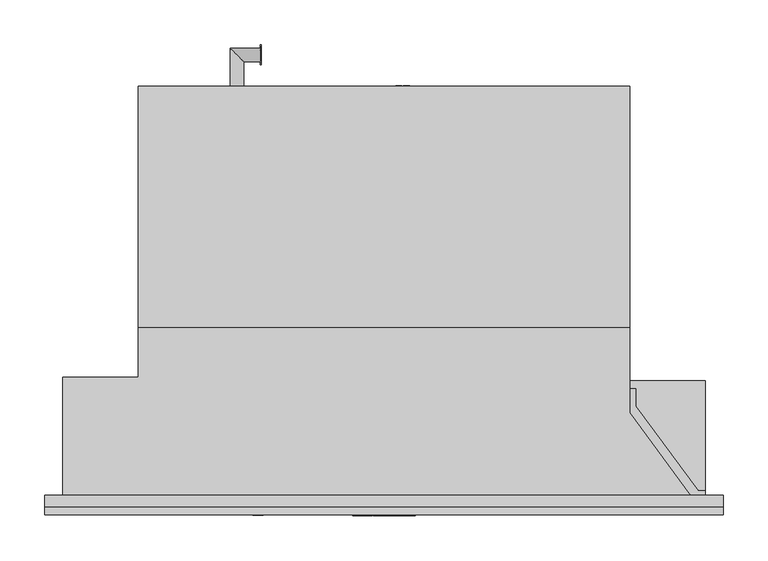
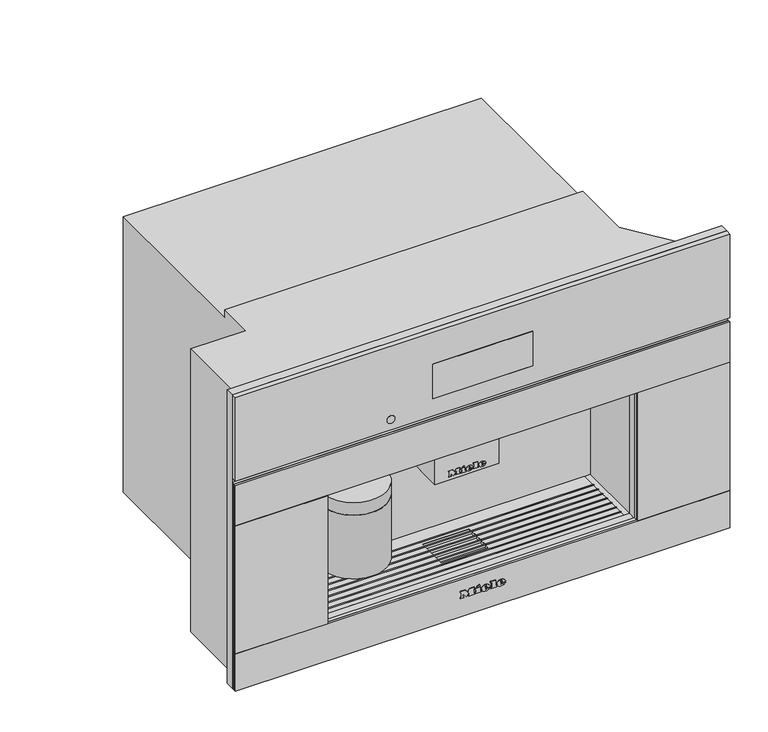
"""IFC4 building model written with IfcOpenShell, lengths in millimetres: proxy geometry, 12635820_USA_CVA7875_GRGR : 29787530_USA_12635820_CVA7875_GRGR."""

from ifc_helpers import new_model, si_unit, point, frame, frame_2d, origin, place, context, project, spatial, polyline, circle_curve, ellipse_curve, trimmed, segment, composite_curve, outline, extrude, faceted_brep, source, transform, mapped, element, save
from ifc_brep_helpers import plane_surface, cylinder_surface, revolved_surface, extruded_surface, advanced_brep


def specialty_equipment_ae1940a0(model_context):
    return source(origin(), model_context, "Body", "SolidModel", [
        extrude(outline(composite_curve([segment(trimmed(circle_curve(frame_2d((-14.0, 36.5)), 5.0), [point((-9.0, 36.5))], [point((-19.0, 36.5))], False, "CARTESIAN"), True, "CONTINUOUS"), segment(trimmed(circle_curve(frame_2d((-14.0, 36.5)), 5.0), [point((-19.0, 36.5))], [point((-9.0, 36.5))], False, "CARTESIAN"), True, "CONTINUOUS")], self_intersect=False)), frame((0.0, 0.0, 193.0), z_axis=(0.0, 0.0, 1.0), x_axis=(1.0, 0.0, 0.0)), (0.0, 0.0, 1.0), 5.0),
        extrude(outline(composite_curve([segment(trimmed(circle_curve(frame_2d((14.0, 36.5)), 5.0), [point((19.0, 36.5))], [point((9.0, 36.5))], False, "CARTESIAN"), True, "CONTINUOUS"), segment(trimmed(circle_curve(frame_2d((14.0, 36.5)), 5.0), [point((9.0, 36.5))], [point((19.0, 36.5))], False, "CARTESIAN"), True, "CONTINUOUS")], self_intersect=False)), frame((0.0, 0.0, 193.0), z_axis=(0.0, 0.0, 1.0), x_axis=(1.0, 0.0, 0.0)), (0.0, 0.0, 1.0), 5.0),
        extrude(outline(composite_curve([segment(trimmed(circle_curve(frame_2d((-156.5, 49.5)), 50.0), [point((-106.5, 49.5))], [point((-206.5, 49.5))], False, "CARTESIAN"), True, "CONTINUOUS"), segment(trimmed(circle_curve(frame_2d((-156.5, 49.5)), 50.0), [point((-206.5, 49.5))], [point((-106.5, 49.5))], False, "CARTESIAN"), True, "CONTINUOUS")], self_intersect=False)), frame((0.0, 0.0, 100.0), z_axis=(0.0, 0.0, 1.0), x_axis=(1.0, 0.0, 0.0)), (0.0, 0.0, 1.0), 103.0),
        extrude(outline(polyline([(-49.0, 95.0), (49.0, 95.0), (49.0, 20.0), (-49.0, 20.0), (-49.0, 95.0)])), frame((0.0, 0.0, 198.0), z_axis=(0.0, 0.0, 1.0), x_axis=(1.0, 0.0, 0.0)), (0.0, 0.0, 1.0), 75.0),
        extrude(outline(polyline([(479.0, 378.5), (479.0, -378.5), (4.0, -378.5), (4.0, 378.5), (479.0, 378.5)]), holes=[polyline([(273.0, 237.5), (63.0, 237.5), (63.0, -237.5), (273.0, -237.5), (273.0, 237.5)])]), frame((0.0, -13.0, 0.0), z_axis=(0.0, 1.0, 0.0), x_axis=(0.0, 0.0, 1.0)), (0.0, 0.0, 1.0), 13.0),
        extrude(outline(polyline([(281.0, 118.7), (281.0, 99.0591954), (350.457423, 4.7), (358.5, 4.7), (358.5, 0.0), (341.5, 0.0), (274.0, 91.7), (274.0, 118.7), (281.0, 118.7)])), frame((0.0, 0.0, 45.0), z_axis=(0.0, 0.0, 1.0), x_axis=(1.0, 0.0, 0.0)), (0.0, 0.0, 1.0), 34.0),
        faceted_brep([(-22.0, 400.0, 133.0), (55.0, 400.0, 133.0), (55.0, 400.0, 66.0), (35.0, 400.0, 66.0), (-22.0, 400.0, 89.0), (-22.0, 456.0, 133.0), (55.0, 456.0, 133.0), (55.0, 456.0, 66.0), (35.0, 456.0, 66.0), (-22.0, 456.0, 89.0), (358.5, 0.0, 0.0), (358.5, 127.7, 0.0), (358.5, 127.7, 45.0), (358.5, 0.0, 45.0), (-358.5, 0.0, 0.0), (-358.5, 0.0, 458.0), (-358.5, 131.7, 458.0), (-358.5, 131.7, 0.0), (-274.0, 131.7, 0.0), (-274.0, 456.0, 0.0), (274.0, 456.0, 0.0), (274.0, 127.7, 0.0), (274.0, 456.0, 446.0), (-274.0, 456.0, 446.0), (274.0, 187.0, 446.0), (-274.0, 187.0, 446.0), (274.0, 187.0, 458.0), (-274.0, 187.0, 458.0), (341.5, 0.0, 458.0), (274.0, 91.7, 458.0), (-274.0, 131.7, 458.0), (341.5, 0.0, 45.0), (237.5, 0.0, 273.0), (237.5, 0.0, 63.0), (229.5, 0.0, 63.0), (229.5, 0.0, 62.0), (-229.5, 0.0, 62.0), (-229.5, 0.0, 63.0), (-237.5, 0.0, 63.0), (-237.5, 0.0, 273.0), (237.5, 104.5, 273.0), (-237.5, 104.5, 273.0), (-237.5, 104.5, 63.0), (-229.5, 104.5, 63.0), (-229.5, 104.5, 62.0), (229.5, 104.5, 62.0), (229.5, 104.5, 63.0), (237.5, 104.5, 63.0), (-36.0, 76.0, 62.0), (36.0, 76.0, 62.0), (36.0, 25.0, 62.0), (-36.0, 25.0, 62.0), (36.0, 76.0, 58.0), (-36.0, 76.0, 58.0), (-36.0, 25.0, 58.0), (36.0, 25.0, 58.0), (274.0, 91.7, 45.0), (274.0, 127.7, 45.0)], [[[0, 1, 2, 3, 4]], [[1, 0, 5, 6]], [[2, 1, 6, 7]], [[3, 2, 7, 8]], [[4, 3, 8, 9]], [[0, 4, 9, 5]], [[10, 11, 12, 13]], [[14, 15, 16, 17]], [[10, 14, 17, 18, 19, 20, 21, 11]], [[22, 20, 19, 23], [6, 5, 9, 8, 7]], [[24, 22, 23, 25]], [[26, 24, 25, 27]], [[15, 28, 29, 26, 27, 30, 16]], [[15, 14, 10, 13, 31, 28], [32, 33, 34, 35, 36, 37, 38, 39]], [[40, 41, 42, 43, 44, 45, 46, 47]], [[40, 47, 33, 32]], [[33, 47, 46, 34]], [[42, 38, 37, 43]], [[42, 41, 39, 38]], [[41, 40, 32, 39]], [[45, 44, 36, 35], [48, 49, 50, 51]], [[36, 44, 43, 37]], [[45, 35, 34, 46]], [[52, 53, 54, 55]], [[53, 52, 49, 48]], [[54, 53, 48, 51]], [[55, 54, 51, 50]], [[52, 55, 50, 49]], [[21, 20, 22, 24, 26, 29, 56, 57]], [[11, 21, 57, 12]], [[57, 56, 31, 13, 12]], [[30, 18, 17, 16]], [[18, 30, 27, 25, 23, 19]], [[31, 56, 29, 28]]]),
        extrude(outline(polyline([(480.48348, 22.0), (480.48348, 32.045631), (481.7391839, 32.045631), (481.7391839, 27.128275), (486.8895318, 32.045631), (488.6455552, 32.045631), (484.3217155, 27.9155425), (488.8025182, 22.0), (487.267224, 22.0), (483.4314411, 27.0669613), (481.7391839, 25.4531857), (481.7391839, 22.0), (480.48348, 22.0)])), frame((-138.0, 0.0, 0.0), z_axis=(1.0, 0.0, 0.0), x_axis=(0.0, 1.0, 0.0)), (0.0, 0.0, 1.0), 1.0),
        extrude(outline(polyline([(491.5420128, 22.0), (488.8025182, 32.045631), (490.0974628, 32.045631), (491.6867131, 25.4433755), (492.1772224, 23.4053092), (492.7020674, 25.207931), (494.6935352, 32.045631), (496.5599232, 32.045631), (498.0069257, 27.0890343), (499.0835937, 23.4053092), (499.5593878, 25.3845144), (501.1633533, 32.045631), (502.4582979, 32.045631), (499.7163507, 22.0), (498.3748077, 22.0), (495.9664069, 29.7500474), (495.630408, 30.8316204), (495.2527159, 29.5293182), (493.0576866, 22.0), (491.5420128, 22.0)])), frame((-138.0, 0.0, 0.0), z_axis=(1.0, 0.0, 0.0), x_axis=(0.0, 1.0, 0.0)), (0.0, 0.0, 1.0), 1.0),
        advanced_brep(
        [(-156.5, 456.0, 27.0), (-171.5, 456.0, 27.0), (-156.5, 483.5, 27.0), (-171.5, 498.5, 27.0), (-138.0, 483.5, 27.0), (-138.0, 498.5, 27.0)],
        [
            (0, 1, circle_curve(frame((-164.0, 456.0, 27.0), z_axis=(0.0, -1.0, 0.0), x_axis=(-1.0, 0.0, 0.0)), 7.5)),
            (1, 0, circle_curve(frame((-164.0, 456.0, 27.0), z_axis=(0.0, -1.0, 0.0), x_axis=(-1.0, 0.0, 0.0)), 7.5)),
            (0, 2),
            (2, 3, ellipse_curve(frame((-164.0, 491.0, 27.0), z_axis=(-0.707106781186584, -0.7071067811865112, 0.0), x_axis=(0.7071067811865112, -0.7071067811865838, 0.0)), 10.6066017, 7.5)),
            (3, 1),
            (3, 2, ellipse_curve(frame((-164.0, 491.0, 27.0), z_axis=(-0.707106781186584, -0.7071067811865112, 0.0), x_axis=(0.7071067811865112, -0.7071067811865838, 0.0)), 10.6066017, 7.5)),
            (4, 5, circle_curve(frame((-138.0, 491.0, 27.0), z_axis=(1.0, 0.0, 0.0), x_axis=(0.0, 1.0, 0.0)), 7.5)),
            (5, 4, circle_curve(frame((-138.0, 491.0, 27.0), z_axis=(1.0, 0.0, 0.0), x_axis=(0.0, 1.0, 0.0)), 7.5)),
            (2, 4),
            (5, 3),
        ],
        [
            plane_surface(frame((-164.0, 456.0, 27.0), z_axis=(0.0, -1.0, 0.0), x_axis=(0.0, 0.0, 1.0))),
            cylinder_surface(frame((-164.0, 456.0, 27.0), z_axis=(0.0, -1.0, 0.0), x_axis=(-1.0, 0.0, 0.0)), 7.5),
            plane_surface(frame((-138.0, 491.0, 27.0), z_axis=(1.0, 0.0, 0.0), x_axis=(0.0, 0.0, 1.0))),
            cylinder_surface(frame((-164.0, 491.0, 27.0), z_axis=(-1.0, 0.0, 0.0), x_axis=(0.0, 1.0, 0.0)), 7.5),
        ],
        [
            (0, [[1, 2]]),
            (1, [[-1, 3, 4, 5]]),
            (1, [[-2, -5, 6, -3]]),
            (2, [[7, 8]]),
            (3, [[-4, 9, -8, 10]]),
            (3, [[-6, -10, -7, -9]]),
        ],
    ),
        extrude(outline(polyline([(99.0, 28.8772152), (109.045631, 28.8772152), (109.045631, 21.6569179), (107.7899271, 21.6569179), (107.7899271, 27.6215114), (104.8076304, 27.6215114), (104.8076304, 21.9708439), (103.5519266, 21.9708439), (103.5519266, 27.6215114), (100.2557039, 27.6215114), (100.2557039, 21.499955), (99.0, 21.499955), (99.0, 28.8772152)])), frame((0.0, 456.0, 0.0), z_axis=(0.0, 1.0, 0.0), x_axis=(0.0, 0.0, 1.0)), (0.0, 0.0, 1.0), 1.0),
        extrude(outline(polyline([(99.0, 19.6163991), (109.045631, 19.6163991), (109.045631, 18.3606953), (100.2557039, 18.3606953), (100.2557039, 13.3378798), (99.0, 13.3378798), (99.0, 19.6163991)])), frame((0.0, 456.0, 0.0), z_axis=(0.0, 1.0, 0.0), x_axis=(0.0, 0.0, 1.0)), (0.0, 0.0, 1.0), 1.0),
        advanced_brep(
        [(55.0, 425.5, 104.0), (55.0, 410.5, 104.0), (28.5, 425.5, 104.0), (13.5, 410.5, 104.0), (28.5, 456.0, 104.0), (13.5, 456.0, 104.0)],
        [
            (0, 1, circle_curve(frame((55.0, 418.0, 104.0), z_axis=(1.0, 0.0, 0.0), x_axis=(0.0, -1.0, 0.0)), 7.5)),
            (1, 0, circle_curve(frame((55.0, 418.0, 104.0), z_axis=(1.0, 0.0, 0.0), x_axis=(0.0, -1.0, 0.0)), 7.5)),
            (0, 2),
            (2, 3, ellipse_curve(frame((21.0, 418.0, 104.0), z_axis=(0.7071067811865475, -0.7071067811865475, 0.0), x_axis=(0.7071067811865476, 0.7071067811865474, 0.0)), 10.6066017, 7.5)),
            (3, 1),
            (3, 2, ellipse_curve(frame((21.0, 418.0, 104.0), z_axis=(0.7071067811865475, -0.7071067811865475, 0.0), x_axis=(0.7071067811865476, 0.7071067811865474, 0.0)), 10.6066017, 7.5)),
            (4, 5, circle_curve(frame((21.0, 456.0, 104.0), z_axis=(0.0, 1.0, 0.0), x_axis=(-1.0, 0.0, 0.0)), 7.5)),
            (5, 4, circle_curve(frame((21.0, 456.0, 104.0), z_axis=(0.0, 1.0, 0.0), x_axis=(-1.0, 0.0, 0.0)), 7.5)),
            (2, 4),
            (5, 3),
        ],
        [
            plane_surface(frame((55.0, 418.0, 104.0), z_axis=(1.0, 0.0, 0.0), x_axis=(0.0, 0.0, 1.0))),
            cylinder_surface(frame((55.0, 418.0, 104.0), z_axis=(1.0, 0.0, 0.0), x_axis=(0.0, -1.0, 0.0)), 7.5),
            plane_surface(frame((21.0, 456.0, 104.0), z_axis=(0.0, 1.0, 0.0), x_axis=(0.0, 0.0, 1.0))),
            cylinder_surface(frame((21.0, 418.0, 104.0), z_axis=(0.0, -1.0, 0.0), x_axis=(-1.0, 0.0, 0.0)), 7.5),
        ],
        [
            (0, [[1, 2]]),
            (1, [[-1, 3, 4, 5]]),
            (1, [[-2, -5, 6, -3]]),
            (2, [[7, 8]]),
            (3, [[-4, 9, -8, 10]]),
            (3, [[-6, -10, -7, -9]]),
        ],
    ),
        advanced_brep(
        [(-110.0, 49.5, 252.0), (-203.0, 49.5, 252.0), (-206.5, 49.5, 223.5), (-106.5, 49.5, 223.5), (-110.0, 49.5, 273.0), (-203.0, 49.5, 273.0), (-156.5, 49.5, 273.0), (-106.5, 49.5, 203.0), (-206.5, 49.5, 203.0), (-156.5, 49.5, 203.0)],
        [
            (0, 1, circle_curve(frame((-156.5, 49.5, 252.0), z_axis=(0.0, 0.0, -1.0), x_axis=(-1.0, 0.0, 0.0)), 46.5)),
            (1, 2, circle_curve(frame((-206.7961166, 49.5, 238.0012775), z_axis=(0.0, 1.0, 0.0), x_axis=(-1.0, 0.0, 0.0)), 14.5043005)),
            (2, 3, circle_curve(frame((-156.5, 49.5, 223.5), z_axis=(0.0, 0.0, 1.0), x_axis=(-1.0, 0.0, 0.0)), 50.0)),
            (3, 0, circle_curve(frame((-106.2038834, 49.5, 238.0012775), z_axis=(0.0, 1.0, 0.0), x_axis=(1.0, 0.0, 0.0)), 14.5043005)),
            (4, 5, circle_curve(frame((-156.5, 49.5, 273.0), z_axis=(0.0, 0.0, -1.0), x_axis=(-1.0, 0.0, 0.0)), 46.5)),
            (5, 1),
            (0, 4),
            (6, 4),
            (4, 5, circle_curve(frame((-156.5, 49.5, 273.0), z_axis=(0.0, 0.0, 1.0), x_axis=(-1.0, 0.0, 0.0)), 46.5)),
            (5, 6),
            (7, 8, circle_curve(frame((-156.5, 49.5, 203.0), z_axis=(0.0, 0.0, -1.0), x_axis=(-1.0, 0.0, 0.0)), 50.0)),
            (8, 9),
            (9, 7),
            (8, 7, circle_curve(frame((-156.5, 49.5, 203.0), z_axis=(0.0, 0.0, -1.0), x_axis=(-1.0, 0.0, 0.0)), 50.0)),
            (2, 8),
            (7, 3),
            (2, 3, circle_curve(frame((-156.5, 49.5, 223.5), z_axis=(0.0, 0.0, -1.0), x_axis=(-1.0, 0.0, 0.0)), 50.0)),
            (1, 0, circle_curve(frame((-156.5, 49.5, 252.0), z_axis=(0.0, 0.0, -1.0), x_axis=(-1.0, 0.0, 0.0)), 46.5)),
        ],
        [
            revolved_surface(trimmed(ellipse_curve(frame((-206.7961166, 49.5, 238.0012775), z_axis=(0.0, -1.0, 0.0), x_axis=(-1.0, 0.0, 0.0)), 14.5043005, 14.5043005), [point((-206.5, 49.5, 223.5))], [point((-203.0, 49.5, 252.0))], True, "CARTESIAN"), (-156.5, 49.5, 388.7361736), (0.0, 0.0, 1.0)),
            cylinder_surface(frame((-156.5, 49.5, 388.7361736), z_axis=(0.0, 0.0, 1.0), x_axis=(-1.0, 0.0, 0.0)), 46.5),
            plane_surface(frame((-156.5, 49.5, 273.0), z_axis=(0.0, 0.0, 1.0), x_axis=(-1.0, 0.0, 0.0))),
            plane_surface(frame((-156.5, 49.5, 203.0), z_axis=(0.0, 0.0, -1.0), x_axis=(-1.0, 0.0, 0.0))),
            cylinder_surface(frame((-156.5, 49.5, 388.7361736), z_axis=(0.0, 0.0, 1.0), x_axis=(-1.0, 0.0, 0.0)), 50.0),
        ],
        [
            (0, [[1, 2, 3, 4]]),
            (1, [[5, 6, -1, 7]]),
            (2, [[8, 9, 10]]),
            (3, [[11, 12, 13]]),
            (3, [[14, -13, -12]]),
            (4, [[-3, 15, -11, 16]]),
            (4, [[17, -16, -14, -15]]),
            (0, [[18, -4, -17, -2]]),
            (1, [[-9, -7, -18, -6]]),
            (2, [[-10, -5, -8]]),
        ],
    ),
        faceted_brep([(229.5, 82.0925571, 60.0), (229.5, 80.0925571, 60.0), (-229.5, 80.0925571, 60.0), (-229.5, 82.0925571, 60.0), (229.5, 70.0550731, 60.0), (229.5, 68.0550731, 60.0), (-229.5, 68.0550731, 60.0), (-229.5, 70.0550731, 60.0), (229.5, 58.0175891, 60.0), (229.5, 56.0175891, 60.0), (-229.5, 56.0175891, 60.0), (-229.5, 58.0175891, 60.0), (229.5, 45.9801052, 60.0), (229.5, 43.9801052, 60.0), (-229.5, 43.9801052, 60.0), (-229.5, 45.9801052, 60.0), (229.5, 33.9426212, 60.0), (229.5, 31.9426212, 60.0), (-229.5, 31.9426212, 60.0), (-229.5, 33.9426212, 60.0), (229.5, 21.9776522, 60.0), (229.5, 19.9776522, 60.0), (-229.5, 19.9776522, 60.0), (-229.5, 21.9776522, 60.0), (229.5, 10.0, 60.0), (229.5, 8.0, 60.0), (-229.5, 8.0, 60.0), (-229.5, 10.0, 60.0), (-229.5, 45.9801052, 62.0), (-36.0, 45.9801052, 62.0), (-36.0, 45.9801052, 63.0), (-229.5, 45.9801052, 63.0), (-229.5, 45.9801052, 63.5), (229.5, 45.9801052, 63.5), (229.5, 45.9801052, 63.0), (36.0, 45.9801052, 63.0), (36.0, 45.9801052, 62.0), (229.5, 45.9801052, 62.0), (229.5, 19.9776522, 62.0), (229.5, 10.0, 62.0), (-229.5, 10.0, 62.0), (-229.5, 19.9776522, 62.0), (229.5, 43.9801052, 62.0), (229.5, 33.9426212, 62.0), (36.0, 33.9426212, 62.0), (36.0, 43.9801052, 62.0), (229.5, 56.0175891, 62.0), (36.0, 56.0175891, 62.0), (229.5, 68.0550731, 62.0), (229.5, 58.0175891, 62.0), (36.0, 58.0175891, 62.0), (36.0, 68.0550731, 62.0), (-229.5, 33.9426212, 62.0), (-229.5, 43.9801052, 62.0), (-36.0, 43.9801052, 62.0), (-36.0, 33.9426212, 62.0), (-229.5, 56.0175891, 62.0), (-36.0, 56.0175891, 62.0), (-229.5, 58.0175891, 62.0), (-229.5, 68.0550731, 62.0), (-36.0, 68.0550731, 62.0), (-36.0, 58.0175891, 62.0), (-229.5, 104.5, 62.0), (229.5, 104.5, 62.0), (229.5, 82.0925571, 62.0), (-229.5, 82.0925571, 62.0), (36.0, 76.0, 62.0), (-36.0, 76.0, 62.0), (-36.0, 70.0550731, 62.0), (-229.5, 70.0550731, 62.0), (-229.5, 80.0925571, 62.0), (229.5, 80.0925571, 62.0), (229.5, 70.0550731, 62.0), (36.0, 70.0550731, 62.0), (229.5, 0.0, 62.0), (-229.5, 0.0, 62.0), (-229.5, 8.0, 62.0), (229.5, 8.0, 62.0), (-36.0, 25.0, 62.0), (36.0, 25.0, 62.0), (36.0, 31.9426212, 62.0), (229.5, 31.9426212, 62.0), (229.5, 21.9776522, 62.0), (-229.5, 21.9776522, 62.0), (-229.5, 31.9426212, 62.0), (-36.0, 31.9426212, 62.0), (229.5, 104.5, 63.0), (-229.5, 104.5, 63.0), (-229.5, 82.0925571, 63.0), (229.5, 82.0925571, 63.0), (-229.5, 0.0, 63.0), (229.5, 0.0, 63.0), (229.5, 8.0, 63.0), (-229.5, 8.0, 63.0), (-36.0, 76.0, 63.0), (36.0, 76.0, 63.0), (36.0, 70.0550731, 63.0), (229.5, 70.0550731, 63.0), (229.5, 80.0925571, 63.0), (-229.5, 80.0925571, 63.0), (-229.5, 70.0550731, 63.0), (-36.0, 70.0550731, 63.0), (36.0, 25.0, 63.0), (-36.0, 25.0, 63.0), (-36.0, 31.9426212, 63.0), (-229.5, 31.9426212, 63.0), (-229.5, 21.9776522, 63.0), (229.5, 21.9776522, 63.0), (229.5, 31.9426212, 63.0), (36.0, 31.9426212, 63.0), (-229.5, 19.9776522, 63.0), (-229.5, 10.0, 63.0), (229.5, 10.0, 63.0), (229.5, 19.9776522, 63.0), (-229.5, 43.9801052, 63.0), (-229.5, 33.9426212, 63.0), (-36.0, 33.9426212, 63.0), (-36.0, 43.9801052, 63.0), (-229.5, 56.0175891, 63.0), (-36.0, 56.0175891, 63.0), (-229.5, 68.0550731, 63.0), (-229.5, 58.0175891, 63.0), (-36.0, 58.0175891, 63.0), (-36.0, 68.0550731, 63.0), (229.5, 33.9426212, 63.0), (229.5, 43.9801052, 63.0), (36.0, 43.9801052, 63.0), (36.0, 33.9426212, 63.0), (229.5, 56.0175891, 63.0), (36.0, 56.0175891, 63.0), (229.5, 58.0175891, 63.0), (229.5, 68.0550731, 63.0), (36.0, 68.0550731, 63.0), (36.0, 58.0175891, 63.0), (-229.5, 8.0, 63.5), (-229.5, 10.0, 63.5), (-229.5, 19.9776522, 63.5), (-229.5, 21.9776522, 63.5), (-229.5, 31.9426212, 63.5), (-229.5, 33.9426212, 63.5), (-229.5, 43.9801052, 63.5), (-229.5, 56.0175891, 63.5), (-229.5, 58.0175891, 63.5), (-229.5, 68.0550731, 63.5), (-229.5, 70.0550731, 63.5), (-229.5, 80.0925571, 63.5), (-229.5, 82.0925571, 63.5), (229.5, 82.0925571, 63.5), (229.5, 80.0925571, 63.5), (229.5, 70.0550731, 63.5), (229.5, 68.0550731, 63.5), (229.5, 58.0175891, 63.5), (229.5, 56.0175891, 63.5), (229.5, 43.9801052, 63.5), (229.5, 33.9426212, 63.5), (229.5, 31.9426212, 63.5), (229.5, 21.9776522, 63.5), (229.5, 19.9776522, 63.5), (229.5, 10.0, 63.5), (229.5, 8.0, 63.5)], [[[0, 1, 2, 3]], [[4, 5, 6, 7]], [[8, 9, 10, 11]], [[12, 13, 14, 15]], [[16, 17, 18, 19]], [[20, 21, 22, 23]], [[24, 25, 26, 27]], [[12, 15, 28, 29, 30, 31, 32, 33, 34, 35, 36, 37]], [[38, 39, 40, 41]], [[42, 43, 44, 45]], [[46, 37, 36, 47]], [[48, 49, 50, 51]], [[52, 53, 54, 55]], [[28, 56, 57, 29]], [[58, 59, 60, 61]], [[62, 63, 64, 65]], [[66, 67, 68, 69, 70, 71, 72, 73]], [[74, 75, 76, 77]], [[78, 79, 80, 81, 82, 83, 84, 85]], [[86, 87, 88, 89]], [[90, 91, 92, 93]], [[94, 95, 96, 97, 98, 99, 100, 101]], [[102, 103, 104, 105, 106, 107, 108, 109]], [[110, 111, 112, 113]], [[114, 115, 116, 117]], [[118, 31, 30, 119]], [[120, 121, 122, 123]], [[124, 125, 126, 127]], [[34, 128, 129, 35]], [[130, 131, 132, 133]], [[63, 62, 87, 86]], [[87, 62, 65, 3, 2, 70, 69, 7, 6, 59, 58, 11, 10, 56, 28, 15, 14, 53, 52, 19, 18, 84, 83, 23, 22, 41, 40, 27, 26, 76, 75, 90, 93, 134, 135, 111, 110, 136, 137, 106, 105, 138, 139, 115, 114, 140, 32, 31, 118, 141, 142, 121, 120, 143, 144, 100, 99, 145, 146, 88]], [[75, 74, 91, 90]], [[63, 86, 89, 147, 148, 98, 97, 149, 150, 131, 130, 151, 152, 128, 34, 33, 153, 125, 124, 154, 155, 108, 107, 156, 157, 113, 112, 158, 159, 92, 91, 74, 77, 25, 24, 39, 38, 21, 20, 82, 81, 17, 16, 43, 42, 13, 12, 37, 46, 9, 8, 49, 48, 5, 4, 72, 71, 1, 0, 64]], [[66, 95, 94, 67]], [[55, 54, 117, 116]], [[29, 57, 119, 30]], [[61, 60, 123, 122]], [[67, 94, 101, 68]], [[103, 78, 85, 104]], [[78, 103, 102, 79]], [[45, 44, 127, 126]], [[47, 36, 35, 129]], [[51, 50, 133, 132]], [[95, 66, 73, 96]], [[79, 102, 109, 80]], [[158, 135, 134, 159]], [[156, 137, 136, 157]], [[154, 139, 138, 155]], [[33, 32, 140, 153]], [[151, 142, 141, 152]], [[149, 144, 143, 150]], [[147, 146, 145, 148]], [[24, 27, 40, 39]], [[135, 158, 112, 111]], [[26, 25, 77, 76]], [[159, 134, 93, 92]], [[20, 23, 83, 82]], [[137, 156, 107, 106]], [[22, 21, 38, 41]], [[157, 136, 110, 113]], [[16, 19, 52, 55, 116, 115, 139, 154, 124, 127, 44, 43]], [[18, 17, 81, 80, 109, 108, 155, 138, 105, 104, 85, 84]], [[14, 13, 42, 45, 126, 125, 153, 140, 114, 117, 54, 53]], [[8, 11, 58, 61, 122, 121, 142, 151, 130, 133, 50, 49]], [[10, 9, 46, 47, 129, 128, 152, 141, 118, 119, 57, 56]], [[4, 7, 69, 68, 101, 100, 144, 149, 97, 96, 73, 72]], [[6, 5, 48, 51, 132, 131, 150, 143, 120, 123, 60, 59]], [[0, 3, 65, 64]], [[146, 147, 89, 88]], [[2, 1, 71, 70]], [[148, 145, 99, 98]]]),
        advanced_brep(
        [(27.088, -23.0, 36.7018), (27.088, -23.0, 37.8532), (34.7146, -23.0, 37.8532), (21.445, -23.0, 37.8532), (24.58, -23.0, 34.0), (34.5208, -23.0, 36.7018), (31.078, -23.0, 36.7018), (28.3648, -23.0, 35.425), (27.088, -23.0, 39.3124), (27.088, -23.0, 40.555), (29.0374, -23.0, 40.555), (29.0374, -23.0, 39.3124), (27.088, -22.0, 36.7018), (28.3648, -22.0, 35.425), (31.078, -22.0, 36.7018), (34.5208, -22.0, 36.7018), (24.58, -22.0, 34.0), (21.445, -22.0, 37.8532), (34.7146, -22.0, 37.8532), (27.088, -22.0, 37.8532), (27.088, -22.0, 39.3124), (29.0374, -22.0, 39.3124), (29.0374, -22.0, 40.555), (27.088, -22.0, 40.555)],
        [
            (0, 1),
            (1, 2),
            (2, 3, ellipse_curve(frame((28.0798, -23.0, 37.8532), z_axis=(0.0, -1.0, 0.0), x_axis=(-1.0, 0.0, 0.0)), 6.6348, 5.4834)),
            (3, 4, circle_curve(frame((25.8568622, -23.0, 38.2408), z_axis=(0.0, -1.0, 0.0), x_axis=(0.0, 0.0, -1.0)), 4.4288556)),
            (4, 5, circle_curve(frame((27.9469808, -23.0, 41.2504), z_axis=(0.0, -1.0, 0.0), x_axis=(0.0, 0.0, -1.0)), 7.9940516)),
            (5, 6),
            (6, 7, circle_curve(frame((28.9220588, -23.0, 37.762), z_axis=(0.0, 1.0, 0.0), x_axis=(0.0, 0.0, -1.0)), 2.4025208)),
            (7, 0, circle_curve(frame((28.3648, -23.0, 36.7018), z_axis=(0.0, 1.0, 0.0), x_axis=(0.0, 0.0, -1.0)), 1.2768)),
            (8, 9),
            (9, 10, circle_curve(frame((28.0627, -23.0, 40.555), z_axis=(0.0, 1.0, 0.0), x_axis=(0.0, 0.0, -1.0)), 0.9747)),
            (10, 11),
            (11, 8),
            (12, 13, circle_curve(frame((28.3648, -22.0, 36.7018), z_axis=(0.0, -1.0, 0.0), x_axis=(0.0, 0.0, -1.0)), 1.2768)),
            (13, 14, circle_curve(frame((28.9220588, -22.0, 37.762), z_axis=(0.0, -1.0, 0.0), x_axis=(0.0, 0.0, -1.0)), 2.4025208)),
            (14, 15),
            (15, 16, circle_curve(frame((27.9469808, -22.0, 41.2504), z_axis=(0.0, 1.0, 0.0), x_axis=(0.0, 0.0, -1.0)), 7.9940516)),
            (16, 17, circle_curve(frame((25.8568622, -22.0, 38.2408), z_axis=(0.0, 1.0, 0.0), x_axis=(0.0, 0.0, -1.0)), 4.4288556)),
            (17, 18, ellipse_curve(frame((28.0798, -22.0, 37.8532), z_axis=(0.0, 1.0, 0.0), x_axis=(-1.0, 0.0, 0.0)), 6.6348, 5.4834)),
            (18, 19),
            (19, 12),
            (20, 21),
            (21, 22),
            (22, 23, circle_curve(frame((28.0627, -22.0, 40.555), z_axis=(0.0, -1.0, 0.0), x_axis=(0.0, 0.0, -1.0)), 0.9747)),
            (23, 20),
            (0, 12),
            (19, 1),
            (18, 2),
            (5, 15),
            (14, 6),
            (17, 3),
            (13, 7),
            (16, 4),
            (8, 20),
            (23, 9),
            (22, 10),
            (21, 11),
        ],
        [
            plane_surface(frame((27.088, -23.0, 37.8532), z_axis=(0.0, -1.0, 0.0), x_axis=(0.0, 0.0, 1.0))),
            plane_surface(frame((27.088, -22.0, 37.8532), z_axis=(0.0, 1.0, 0.0), x_axis=(0.0, 0.0, -1.0))),
            plane_surface(frame((27.088, -23.0, 36.7018), z_axis=(1.0, 0.0, 0.0), x_axis=(0.0, 1.0, 0.0))),
            plane_surface(frame((27.088, -23.0, 37.8532), z_axis=(0.0, 0.0, -1.0), x_axis=(0.0, 1.0, 0.0))),
            plane_surface(frame((34.5208, -23.0, 36.7018), z_axis=(0.0, 0.0, 1.0), x_axis=(0.0, 1.0, 0.0))),
            extruded_surface(trimmed(ellipse_curve(frame((28.0798, -21.0, 37.8532), z_axis=(0.0, -1.0, 0.0), x_axis=(-1.0, 0.0, 0.0)), 6.6348, 5.4834), [point((34.7146, -21.0, 37.8532))], [point((21.445, -21.0, 37.8532))], True, "CARTESIAN"), (0.0, -1.0, 0.0), 1.0),
            revolved_surface(polyline([(28.9220588, -22.0, 35.3594792), (28.9220588, -23.0, 35.3594792)]), (28.9220588, -22.0, 37.762), (0.0, 1.0, 0.0)),
            revolved_surface(polyline([(28.3648, -22.0, 35.425), (28.3648, -23.0, 35.425)]), (28.3648, -22.0, 36.7018), (0.0, 1.0, 0.0)),
            cylinder_surface(frame((25.8568622, -22.0, 38.2408), z_axis=(0.0, -1.0, 0.0), x_axis=(0.0, 0.0, -1.0)), 4.4288556),
            cylinder_surface(frame((27.9469808, -22.0, 41.2504), z_axis=(0.0, -1.0, 0.0), x_axis=(0.0, 0.0, -1.0)), 7.9940516),
            plane_surface(frame((27.088, -23.0, 39.3124), z_axis=(1.0, 0.0, 0.0), x_axis=(0.0, 1.0, 0.0))),
            revolved_surface(polyline([(28.0627, -22.0, 39.5803), (28.0627, -23.0, 39.5803)]), (28.0627, -22.0, 40.555), (0.0, 1.0, 0.0)),
            plane_surface(frame((29.0374, -23.0, 40.555), z_axis=(-1.0, 0.0, 0.0), x_axis=(0.0, 1.0, 0.0))),
            plane_surface(frame((29.0374, -23.0, 39.3124), z_axis=(0.0, 0.0, 1.0), x_axis=(0.0, 1.0, 0.0))),
        ],
        [
            (0, [[1, 2, 3, 4, 5, 6, 7, 8], [9, 10, 11, 12]]),
            (1, [[13, 14, 15, 16, 17, 18, 19, 20], [21, 22, 23, 24]]),
            (2, [[-1, 25, -20, 26]]),
            (3, [[-2, -26, -19, 27]]),
            (4, [[-6, 28, -15, 29]]),
            (5, [[-3, -27, -18, 30]]),
            (6, [[-7, -29, -14, 31]]),
            (7, [[-8, -31, -13, -25]]),
            (8, [[-4, -30, -17, 32]]),
            (9, [[-5, -32, -16, -28]]),
            (10, [[-9, 33, -24, 34]]),
            (11, [[-10, -34, -23, 35]]),
            (12, [[-11, -35, -22, 36]]),
            (13, [[-12, -36, -21, -33]]),
        ],
    ),
        advanced_brep(
        [(3.2962, -23.0, 36.7018), (3.2962, -23.0, 37.8532), (10.9228, -23.0, 37.8532), (-2.3468, -23.0, 37.8532), (0.7882, -23.0, 34.0), (10.729, -23.0, 36.7018), (7.2862, -23.0, 36.7018), (4.573, -23.0, 35.425), (3.2962, -23.0, 39.3124), (3.2962, -23.0, 40.555), (5.2456, -23.0, 40.555), (5.2456, -23.0, 39.3124), (3.2962, -22.0, 36.7018), (4.573, -22.0, 35.425), (7.2862, -22.0, 36.7018), (10.729, -22.0, 36.7018), (0.7882, -22.0, 34.0), (-2.3468, -22.0, 37.8532), (10.9228, -22.0, 37.8532), (3.2962, -22.0, 37.8532), (3.2962, -22.0, 39.3124), (5.2456, -22.0, 39.3124), (5.2456, -22.0, 40.555), (3.2962, -22.0, 40.555)],
        [
            (0, 1),
            (1, 2),
            (2, 3, ellipse_curve(frame((4.288, -23.0, 37.8532), z_axis=(0.0, -1.0, 0.0), x_axis=(-1.0, 0.0, 0.0)), 6.6348, 5.4834)),
            (3, 4, circle_curve(frame((2.0650622, -23.0, 38.2408), z_axis=(0.0, -1.0, 0.0), x_axis=(0.0, 0.0, -1.0)), 4.4288556)),
            (4, 5, circle_curve(frame((4.1551808, -23.0, 41.2504), z_axis=(0.0, -1.0, 0.0), x_axis=(0.0, 0.0, -1.0)), 7.9940516)),
            (5, 6),
            (6, 7, circle_curve(frame((5.1302588, -23.0, 37.762), z_axis=(0.0, 1.0, 0.0), x_axis=(0.0, 0.0, -1.0)), 2.4025208)),
            (7, 0, circle_curve(frame((4.573, -23.0, 36.7018), z_axis=(0.0, 1.0, 0.0), x_axis=(0.0, 0.0, -1.0)), 1.2768)),
            (8, 9),
            (9, 10, circle_curve(frame((4.2709, -23.0, 40.555), z_axis=(0.0, 1.0, 0.0), x_axis=(0.0, 0.0, -1.0)), 0.9747)),
            (10, 11),
            (11, 8),
            (12, 13, circle_curve(frame((4.573, -22.0, 36.7018), z_axis=(0.0, -1.0, 0.0), x_axis=(0.0, 0.0, -1.0)), 1.2768)),
            (13, 14, circle_curve(frame((5.1302588, -22.0, 37.762), z_axis=(0.0, -1.0, 0.0), x_axis=(0.0, 0.0, -1.0)), 2.4025208)),
            (14, 15),
            (15, 16, circle_curve(frame((4.1551808, -22.0, 41.2504), z_axis=(0.0, 1.0, 0.0), x_axis=(0.0, 0.0, -1.0)), 7.9940516)),
            (16, 17, circle_curve(frame((2.0650622, -22.0, 38.2408), z_axis=(0.0, 1.0, 0.0), x_axis=(0.0, 0.0, -1.0)), 4.4288556)),
            (17, 18, ellipse_curve(frame((4.288, -22.0, 37.8532), z_axis=(0.0, 1.0, 0.0), x_axis=(-1.0, 0.0, 0.0)), 6.6348, 5.4834)),
            (18, 19),
            (19, 12),
            (20, 21),
            (21, 22),
            (22, 23, circle_curve(frame((4.2709, -22.0, 40.555), z_axis=(0.0, -1.0, 0.0), x_axis=(0.0, 0.0, -1.0)), 0.9747)),
            (23, 20),
            (0, 12),
            (19, 1),
            (18, 2),
            (5, 15),
            (14, 6),
            (17, 3),
            (13, 7),
            (16, 4),
            (8, 20),
            (23, 9),
            (22, 10),
            (21, 11),
        ],
        [
            plane_surface(frame((3.2962, -23.0, 37.8532), z_axis=(0.0, -1.0, 0.0), x_axis=(0.0, 0.0, 1.0))),
            plane_surface(frame((3.2962, -22.0, 37.8532), z_axis=(0.0, 1.0, 0.0), x_axis=(0.0, 0.0, -1.0))),
            plane_surface(frame((3.2962, -23.0, 36.7018), z_axis=(1.0, 0.0, 0.0), x_axis=(0.0, 1.0, 0.0))),
            plane_surface(frame((3.2962, -23.0, 37.8532), z_axis=(0.0, 0.0, -1.0), x_axis=(0.0, 1.0, 0.0))),
            plane_surface(frame((10.729, -23.0, 36.7018), z_axis=(0.0, 0.0, 1.0), x_axis=(0.0, 1.0, 0.0))),
            extruded_surface(trimmed(ellipse_curve(frame((4.288, -21.0, 37.8532), z_axis=(0.0, -1.0, 0.0), x_axis=(-1.0, 0.0, 0.0)), 6.6348, 5.4834), [point((10.9228, -21.0, 37.8532))], [point((-2.3468, -21.0, 37.8532))], True, "CARTESIAN"), (0.0, -1.0, 0.0), 1.0),
            revolved_surface(polyline([(5.1302588, -22.0, 35.3594792), (5.1302588, -23.0, 35.3594792)]), (5.1302588, -22.0, 37.762), (0.0, 1.0, 0.0)),
            revolved_surface(polyline([(4.573, -22.0, 35.425), (4.573, -23.0, 35.425)]), (4.573, -22.0, 36.7018), (0.0, 1.0, 0.0)),
            cylinder_surface(frame((2.0650622, -22.0, 38.2408), z_axis=(0.0, -1.0, 0.0), x_axis=(0.0, 0.0, -1.0)), 4.4288556),
            cylinder_surface(frame((4.1551808, -22.0, 41.2504), z_axis=(0.0, -1.0, 0.0), x_axis=(0.0, 0.0, -1.0)), 7.9940516),
            plane_surface(frame((3.2962, -23.0, 39.3124), z_axis=(1.0, 0.0, 0.0), x_axis=(0.0, 1.0, 0.0))),
            revolved_surface(polyline([(4.2709, -22.0, 39.5803), (4.2709, -23.0, 39.5803)]), (4.2709, -22.0, 40.555), (0.0, 1.0, 0.0)),
            plane_surface(frame((5.2456, -23.0, 40.555), z_axis=(-1.0, 0.0, 0.0), x_axis=(0.0, 1.0, 0.0))),
            plane_surface(frame((5.2456, -23.0, 39.3124), z_axis=(0.0, 0.0, 1.0), x_axis=(0.0, 1.0, 0.0))),
        ],
        [
            (0, [[1, 2, 3, 4, 5, 6, 7, 8], [9, 10, 11, 12]]),
            (1, [[13, 14, 15, 16, 17, 18, 19, 20], [21, 22, 23, 24]]),
            (2, [[-1, 25, -20, 26]]),
            (3, [[-2, -26, -19, 27]]),
            (4, [[-6, 28, -15, 29]]),
            (5, [[-3, -27, -18, 30]]),
            (6, [[-7, -29, -14, 31]]),
            (7, [[-8, -31, -13, -25]]),
            (8, [[-4, -30, -17, 32]]),
            (9, [[-5, -32, -16, -28]]),
            (10, [[-9, 33, -24, 34]]),
            (11, [[-10, -34, -23, 35]]),
            (12, [[-11, -35, -22, 36]]),
            (13, [[-12, -36, -21, -33]]),
        ],
    ),
        extrude(outline(polyline([(44.7274, -9.164), (42.8806, -8.2976), (44.6818, -4.433), (46.5286, -5.288), (44.7274, -9.164)])), frame((0.0, -23.0, 0.0), z_axis=(0.0, 1.0, 0.0), x_axis=(0.0, 0.0, 1.0)), (0.0, 0.0, 1.0), 1.0),
        extrude(outline(polyline([(42.6298, -11.9798), (40.5892, -11.9798), (40.5892, -10.6232), (35.9152, -10.6232), (35.9152, -11.9798), (34.0, -11.9798), (34.0, -2.9852), (35.9152, -2.9852), (35.9152, -4.3076), (42.6298, -4.3076), (42.6298, -11.9798)])), frame((0.0, -23.0, 0.0), z_axis=(0.0, 1.0, 0.0), x_axis=(0.0, 0.0, 1.0)), (0.0, 0.0, 1.0), 1.0),
        extrude(outline(polyline([(43.5418, 11.5612), (43.5418, 12.9292), (35.9152, 12.9292), (35.9152, 11.5612), (34.0, 11.5612), (34.0, 20.8066), (35.9152, 20.8066), (35.9152, 19.4044), (45.4, 19.4044), (45.4, 11.5612), (43.5418, 11.5612)])), frame((0.0, -23.0, 0.0), z_axis=(0.0, 1.0, 0.0), x_axis=(0.0, 0.0, 1.0)), (0.0, 0.0, 1.0), 1.0),
        extrude(outline(polyline([(43.5418, -34.7), (43.5418, -33.3206), (35.9152, -33.3206), (35.9152, -34.7), (34.0, -34.7), (34.0, -29.684), (35.9152, -29.684), (35.9152, -31.052), (40.7429247, -31.052), (34.0, -25.9562), (40.9402223, -20.8376), (35.9152, -20.8376), (35.9152, -22.2398), (34.0, -22.2398), (34.0, -13.1426), (35.9152, -13.1426), (35.9152, -14.5904), (43.5418, -14.5904), (43.5418, -13.1426), (45.4, -13.1426), (45.4, -20.0852), (41.125, -23.414), (45.4, -26.7542), (45.4, -34.7), (43.5418, -34.7)])), frame((0.0, -23.0, 0.0), z_axis=(0.0, 1.0, 0.0), x_axis=(0.0, 0.0, 1.0)), (0.0, 0.0, 1.0), 1.0),
        advanced_brep(
        [(22.348, 19.0, 205.5278), (22.348, 19.0, 206.4772), (28.6366, 19.0, 206.4772), (17.695, 19.0, 206.4772), (20.28, 19.0, 203.3), (28.4768, 19.0, 205.5278), (25.638, 19.0, 205.5278), (23.4008, 19.0, 204.475), (22.348, 19.0, 207.6804), (22.348, 19.0, 208.705), (23.9554, 19.0, 208.705), (23.9554, 19.0, 207.6804), (22.348, 20.0, 205.5278), (23.4008, 20.0, 204.475), (25.638, 20.0, 205.5278), (28.4768, 20.0, 205.5278), (20.28, 20.0, 203.3), (17.695, 20.0, 206.4772), (28.6366, 20.0, 206.4772), (22.348, 20.0, 206.4772), (22.348, 20.0, 207.6804), (23.9554, 20.0, 207.6804), (23.9554, 20.0, 208.705), (22.348, 20.0, 208.705)],
        [
            (0, 1),
            (1, 2),
            (2, 3, ellipse_curve(frame((23.1658, 19.0, 206.4772), z_axis=(0.0, -1.0, 0.0), x_axis=(-1.0, 0.0, 0.0)), 5.4708, 4.5214)),
            (3, 4, circle_curve(frame((21.3328513, 19.0, 206.7968), z_axis=(0.0, -1.0, 0.0), x_axis=(0.0, 0.0, -1.0)), 3.6518634)),
            (4, 5, circle_curve(frame((23.0562825, 19.0, 209.2784), z_axis=(0.0, -1.0, 0.0), x_axis=(0.0, 0.0, -1.0)), 6.5915864)),
            (5, 6),
            (6, 7, circle_curve(frame((23.8602941, 19.0, 206.402), z_axis=(0.0, 1.0, 0.0), x_axis=(0.0, 0.0, -1.0)), 1.981026)),
            (7, 0, circle_curve(frame((23.4008, 19.0, 205.5278), z_axis=(0.0, 1.0, 0.0), x_axis=(0.0, 0.0, -1.0)), 1.0528)),
            (8, 9),
            (9, 10, circle_curve(frame((23.1517, 19.0, 208.705), z_axis=(0.0, 1.0, 0.0), x_axis=(0.0, 0.0, -1.0)), 0.8037)),
            (10, 11),
            (11, 8),
            (12, 13, circle_curve(frame((23.4008, 20.0, 205.5278), z_axis=(0.0, -1.0, 0.0), x_axis=(0.0, 0.0, -1.0)), 1.0528)),
            (13, 14, circle_curve(frame((23.8602941, 20.0, 206.402), z_axis=(0.0, -1.0, 0.0), x_axis=(0.0, 0.0, -1.0)), 1.981026)),
            (14, 15),
            (15, 16, circle_curve(frame((23.0562825, 20.0, 209.2784), z_axis=(0.0, 1.0, 0.0), x_axis=(0.0, 0.0, -1.0)), 6.5915864)),
            (16, 17, circle_curve(frame((21.3328513, 20.0, 206.7968), z_axis=(0.0, 1.0, 0.0), x_axis=(0.0, 0.0, -1.0)), 3.6518634)),
            (17, 18, ellipse_curve(frame((23.1658, 20.0, 206.4772), z_axis=(0.0, 1.0, 0.0), x_axis=(-1.0, 0.0, 0.0)), 5.4708, 4.5214)),
            (18, 19),
            (19, 12),
            (20, 21),
            (21, 22),
            (22, 23, circle_curve(frame((23.1517, 20.0, 208.705), z_axis=(0.0, -1.0, 0.0), x_axis=(0.0, 0.0, -1.0)), 0.8037)),
            (23, 20),
            (0, 12),
            (19, 1),
            (18, 2),
            (5, 15),
            (14, 6),
            (17, 3),
            (13, 7),
            (16, 4),
            (8, 20),
            (23, 9),
            (22, 10),
            (21, 11),
        ],
        [
            plane_surface(frame((22.348, 19.0, 206.4772), z_axis=(0.0, -1.0, 0.0), x_axis=(0.0, 0.0, 1.0))),
            plane_surface(frame((22.348, 20.0, 206.4772), z_axis=(0.0, 1.0, 0.0), x_axis=(0.0, 0.0, -1.0))),
            plane_surface(frame((22.348, 19.0, 205.5278), z_axis=(1.0, 0.0, 0.0), x_axis=(0.0, 1.0, 0.0))),
            plane_surface(frame((22.348, 19.0, 206.4772), z_axis=(0.0, 0.0, -1.0), x_axis=(0.0, 1.0, 0.0))),
            plane_surface(frame((28.4768, 19.0, 205.5278), z_axis=(0.0, 0.0, 1.0), x_axis=(0.0, 1.0, 0.0))),
            extruded_surface(trimmed(ellipse_curve(frame((23.1658, 21.0, 206.4772), z_axis=(0.0, -1.0, 0.0), x_axis=(-1.0, 0.0, 0.0)), 5.4708, 4.5214), [point((28.6366, 21.0, 206.4772))], [point((17.695, 21.0, 206.4772))], True, "CARTESIAN"), (0.0, -1.0, 0.0), 1.0),
            revolved_surface(polyline([(23.8602941, 20.0, 204.420974), (23.8602941, 19.0, 204.420974)]), (23.8602941, 20.0, 206.402), (0.0, 1.0, 0.0)),
            revolved_surface(polyline([(23.4008, 20.0, 204.47500000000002), (23.4008, 19.0, 204.47500000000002)]), (23.4008, 20.0, 205.5278), (0.0, 1.0, 0.0)),
            cylinder_surface(frame((21.3328513, 20.0, 206.7968), z_axis=(0.0, -1.0, 0.0), x_axis=(0.0, 0.0, -1.0)), 3.6518634),
            cylinder_surface(frame((23.0562825, 20.0, 209.2784), z_axis=(0.0, -1.0, 0.0), x_axis=(0.0, 0.0, -1.0)), 6.5915864),
            plane_surface(frame((22.348, 19.0, 207.6804), z_axis=(1.0, 0.0, 0.0), x_axis=(0.0, 1.0, 0.0))),
            revolved_surface(polyline([(23.1517, 20.0, 207.90130000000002), (23.1517, 19.0, 207.90130000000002)]), (23.1517, 20.0, 208.705), (0.0, 1.0, 0.0)),
            plane_surface(frame((23.9554, 19.0, 208.705), z_axis=(-1.0, 0.0, 0.0), x_axis=(0.0, 1.0, 0.0))),
            plane_surface(frame((23.9554, 19.0, 207.6804), z_axis=(0.0, 0.0, 1.0), x_axis=(0.0, 1.0, 0.0))),
        ],
        [
            (0, [[1, 2, 3, 4, 5, 6, 7, 8], [9, 10, 11, 12]]),
            (1, [[13, 14, 15, 16, 17, 18, 19, 20], [21, 22, 23, 24]]),
            (2, [[-1, 25, -20, 26]]),
            (3, [[-2, -26, -19, 27]]),
            (4, [[-6, 28, -15, 29]]),
            (5, [[-3, -27, -18, 30]]),
            (6, [[-7, -29, -14, 31]]),
            (7, [[-8, -31, -13, -25]]),
            (8, [[-4, -30, -17, 32]]),
            (9, [[-5, -32, -16, -28]]),
            (10, [[-9, 33, -24, 34]]),
            (11, [[-10, -34, -23, 35]]),
            (12, [[-11, -35, -22, 36]]),
            (13, [[-12, -36, -21, -33]]),
        ],
    ),
        advanced_brep(
        [(2.7302, 19.0, 205.5278), (2.7302, 19.0, 206.4772), (9.0188, 19.0, 206.4772), (-1.9228, 19.0, 206.4772), (0.6622, 19.0, 203.3), (8.859, 19.0, 205.5278), (6.0202, 19.0, 205.5278), (3.783, 19.0, 204.475), (2.7302, 19.0, 207.6804), (2.7302, 19.0, 208.705), (4.3376, 19.0, 208.705), (4.3376, 19.0, 207.6804), (2.7302, 20.0, 205.5278), (3.783, 20.0, 204.475), (6.0202, 20.0, 205.5278), (8.859, 20.0, 205.5278), (0.6622, 20.0, 203.3), (-1.9228, 20.0, 206.4772), (9.0188, 20.0, 206.4772), (2.7302, 20.0, 206.4772), (2.7302, 20.0, 207.6804), (4.3376, 20.0, 207.6804), (4.3376, 20.0, 208.705), (2.7302, 20.0, 208.705)],
        [
            (0, 1),
            (1, 2),
            (2, 3, ellipse_curve(frame((3.548, 19.0, 206.4772), z_axis=(0.0, -1.0, 0.0), x_axis=(-1.0, 0.0, 0.0)), 5.4708, 4.5214)),
            (3, 4, circle_curve(frame((1.7150513, 19.0, 206.7968), z_axis=(0.0, -1.0, 0.0), x_axis=(0.0, 0.0, -1.0)), 3.6518634)),
            (4, 5, circle_curve(frame((3.4384825, 19.0, 209.2784), z_axis=(0.0, -1.0, 0.0), x_axis=(0.0, 0.0, -1.0)), 6.5915864)),
            (5, 6),
            (6, 7, circle_curve(frame((4.2424941, 19.0, 206.402), z_axis=(0.0, 1.0, 0.0), x_axis=(0.0, 0.0, -1.0)), 1.981026)),
            (7, 0, circle_curve(frame((3.783, 19.0, 205.5278), z_axis=(0.0, 1.0, 0.0), x_axis=(0.0, 0.0, -1.0)), 1.0528)),
            (8, 9),
            (9, 10, circle_curve(frame((3.5339, 19.0, 208.705), z_axis=(0.0, 1.0, 0.0), x_axis=(0.0, 0.0, -1.0)), 0.8037)),
            (10, 11),
            (11, 8),
            (12, 13, circle_curve(frame((3.783, 20.0, 205.5278), z_axis=(0.0, -1.0, 0.0), x_axis=(0.0, 0.0, -1.0)), 1.0528)),
            (13, 14, circle_curve(frame((4.2424941, 20.0, 206.402), z_axis=(0.0, -1.0, 0.0), x_axis=(0.0, 0.0, -1.0)), 1.981026)),
            (14, 15),
            (15, 16, circle_curve(frame((3.4384825, 20.0, 209.2784), z_axis=(0.0, 1.0, 0.0), x_axis=(0.0, 0.0, -1.0)), 6.5915864)),
            (16, 17, circle_curve(frame((1.7150513, 20.0, 206.7968), z_axis=(0.0, 1.0, 0.0), x_axis=(0.0, 0.0, -1.0)), 3.6518634)),
            (17, 18, ellipse_curve(frame((3.548, 20.0, 206.4772), z_axis=(0.0, 1.0, 0.0), x_axis=(-1.0, 0.0, 0.0)), 5.4708, 4.5214)),
            (18, 19),
            (19, 12),
            (20, 21),
            (21, 22),
            (22, 23, circle_curve(frame((3.5339, 20.0, 208.705), z_axis=(0.0, -1.0, 0.0), x_axis=(0.0, 0.0, -1.0)), 0.8037)),
            (23, 20),
            (0, 12),
            (19, 1),
            (18, 2),
            (5, 15),
            (14, 6),
            (17, 3),
            (13, 7),
            (16, 4),
            (8, 20),
            (23, 9),
            (22, 10),
            (21, 11),
        ],
        [
            plane_surface(frame((2.7302, 19.0, 206.4772), z_axis=(0.0, -1.0, 0.0), x_axis=(0.0, 0.0, 1.0))),
            plane_surface(frame((2.7302, 20.0, 206.4772), z_axis=(0.0, 1.0, 0.0), x_axis=(0.0, 0.0, -1.0))),
            plane_surface(frame((2.7302, 19.0, 205.5278), z_axis=(1.0, 0.0, 0.0), x_axis=(0.0, 1.0, 0.0))),
            plane_surface(frame((2.7302, 19.0, 206.4772), z_axis=(0.0, 0.0, -1.0), x_axis=(0.0, 1.0, 0.0))),
            plane_surface(frame((8.859, 19.0, 205.5278), z_axis=(0.0, 0.0, 1.0), x_axis=(0.0, 1.0, 0.0))),
            extruded_surface(trimmed(ellipse_curve(frame((3.548, 21.0, 206.4772), z_axis=(0.0, -1.0, 0.0), x_axis=(-1.0, 0.0, 0.0)), 5.4708, 4.5214), [point((9.0188, 21.0, 206.4772))], [point((-1.9228, 21.0, 206.4772))], True, "CARTESIAN"), (0.0, -1.0, 0.0), 1.0),
            revolved_surface(polyline([(4.2424941, 20.0, 204.420974), (4.2424941, 19.0, 204.420974)]), (4.2424941, 20.0, 206.402), (0.0, 1.0, 0.0)),
            revolved_surface(polyline([(3.783, 20.0, 204.47500000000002), (3.783, 19.0, 204.47500000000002)]), (3.783, 20.0, 205.5278), (0.0, 1.0, 0.0)),
            cylinder_surface(frame((1.7150513, 20.0, 206.7968), z_axis=(0.0, -1.0, 0.0), x_axis=(0.0, 0.0, -1.0)), 3.6518634),
            cylinder_surface(frame((3.4384825, 20.0, 209.2784), z_axis=(0.0, -1.0, 0.0), x_axis=(0.0, 0.0, -1.0)), 6.5915864),
            plane_surface(frame((2.7302, 19.0, 207.6804), z_axis=(1.0, 0.0, 0.0), x_axis=(0.0, 1.0, 0.0))),
            revolved_surface(polyline([(3.5339, 20.0, 207.90130000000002), (3.5339, 19.0, 207.90130000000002)]), (3.5339, 20.0, 208.705), (0.0, 1.0, 0.0)),
            plane_surface(frame((4.3376, 19.0, 208.705), z_axis=(-1.0, 0.0, 0.0), x_axis=(0.0, 1.0, 0.0))),
            plane_surface(frame((4.3376, 19.0, 207.6804), z_axis=(0.0, 0.0, 1.0), x_axis=(0.0, 1.0, 0.0))),
        ],
        [
            (0, [[1, 2, 3, 4, 5, 6, 7, 8], [9, 10, 11, 12]]),
            (1, [[13, 14, 15, 16, 17, 18, 19, 20], [21, 22, 23, 24]]),
            (2, [[-1, 25, -20, 26]]),
            (3, [[-2, -26, -19, 27]]),
            (4, [[-6, 28, -15, 29]]),
            (5, [[-3, -27, -18, 30]]),
            (6, [[-7, -29, -14, 31]]),
            (7, [[-8, -31, -13, -25]]),
            (8, [[-4, -30, -17, 32]]),
            (9, [[-5, -32, -16, -28]]),
            (10, [[-9, 33, -24, 34]]),
            (11, [[-10, -34, -23, 35]]),
            (12, [[-11, -35, -22, 36]]),
            (13, [[-12, -36, -21, -33]]),
        ],
    ),
        extrude(outline(polyline([(212.1454, -7.544), (210.6226, -6.8296), (212.1078, -3.643), (213.6306, -4.348), (212.1454, -7.544)])), frame((0.0, 19.0, 0.0), z_axis=(0.0, 1.0, 0.0), x_axis=(0.0, 0.0, 1.0)), (0.0, 0.0, 1.0), 1.0),
        extrude(outline(polyline([(210.4158, -9.8658), (208.7332, -9.8658), (208.7332, -8.7472), (204.8792, -8.7472), (204.8792, -9.8658), (203.3, -9.8658), (203.3, -2.4492), (204.8792, -2.4492), (204.8792, -3.5396), (210.4158, -3.5396), (210.4158, -9.8658)])), frame((0.0, 19.0, 0.0), z_axis=(0.0, 1.0, 0.0), x_axis=(0.0, 0.0, 1.0)), (0.0, 0.0, 1.0), 1.0),
        extrude(outline(polyline([(211.1678, 9.5452), (211.1678, 10.6732), (204.8792, 10.6732), (204.8792, 9.5452), (203.3, 9.5452), (203.3, 17.1686), (204.8792, 17.1686), (204.8792, 16.0124), (212.7, 16.0124), (212.7, 9.5452), (211.1678, 9.5452)])), frame((0.0, 19.0, 0.0), z_axis=(0.0, 1.0, 0.0), x_axis=(0.0, 0.0, 1.0)), (0.0, 0.0, 1.0), 1.0),
        extrude(outline(polyline([(211.1678, -28.6), (211.1678, -27.4626), (204.8792, -27.4626), (204.8792, -28.6), (203.3, -28.6), (203.3, -24.464), (204.8792, -24.464), (204.8792, -25.592), (208.8689247, -25.592), (203.3, -21.3902), (208.9902223, -17.1696), (204.8792, -17.1696), (204.8792, -18.3258), (203.3, -18.3258), (203.3, -10.8246), (204.8792, -10.8246), (204.8792, -12.0184), (211.1678, -12.0184), (211.1678, -10.8246), (212.7, -10.8246), (212.7, -16.5492), (209.175, -19.294), (212.7, -22.0482), (212.7, -28.6), (211.1678, -28.6)])), frame((0.0, 19.0, 0.0), z_axis=(0.0, 1.0, 0.0), x_axis=(0.0, 0.0, 1.0)), (0.0, 0.0, 1.0), 1.0),
        extrude(outline(polyline([(337.0, 378.5), (337.0, -378.5), (4.0, -378.5), (4.0, 378.5), (337.0, 378.5)]), holes=[polyline([(272.0, 237.5), (64.0, 237.5), (64.0, -237.5), (272.0, -237.5), (272.0, 237.5)])]), frame((0.0, -18.0, 0.0), z_axis=(0.0, 1.0, 0.0), x_axis=(0.0, 0.0, 1.0)), (0.0, 0.0, 1.0), 5.0),
        extrude(outline(polyline([(-378.5, -18.0), (-237.5, -18.0), (-237.5, -22.0), (-378.5, -22.0), (-378.5, -18.0)])), frame((0.0, 0.0, 64.5), z_axis=(0.0, 0.0, 1.0), x_axis=(1.0, 0.0, 0.0)), (0.0, 0.0, 1.0), 207.0),
        extrude(outline(polyline([(237.5, -18.0), (378.5, -18.0), (378.5, -22.0), (237.5, -22.0), (237.5, -18.0)])), frame((0.0, 0.0, 64.5), z_axis=(0.0, 0.0, 1.0), x_axis=(1.0, 0.0, 0.0)), (0.0, 0.0, 1.0), 207.0),
        extrude(outline(polyline([(-378.5, -18.0), (378.5, -18.0), (378.5, -22.0), (-378.5, -22.0), (-378.5, -18.0)])), frame((0.0, 0.0, 272.0), z_axis=(0.0, 0.0, 1.0), x_axis=(1.0, 0.0, 0.0)), (0.0, 0.0, 1.0), 65.0),
        extrude(outline(polyline([(-378.5, -18.0), (378.5, -18.0), (378.5, -22.0), (-378.5, -22.0), (-378.5, -18.0)])), frame((0.0, 0.0, 4.0), z_axis=(0.0, 0.0, 1.0), x_axis=(1.0, 0.0, 0.0)), (0.0, 0.0, 1.0), 60.0),
        extrude(outline(composite_curve([segment(trimmed(circle_curve(frame_2d((361.0, -140.5745637)), 6.0), [point((361.0, -146.5745637))], [point((361.0, -134.5745637))], False, "CARTESIAN"), True, "CONTINUOUS"), segment(trimmed(circle_curve(frame_2d((361.0, -140.5745637)), 6.0), [point((361.0, -134.5745637))], [point((361.0, -146.5745637))], False, "CARTESIAN"), True, "CONTINUOUS")], self_intersect=False)), frame((0.0, -22.5, 0.0), z_axis=(0.0, 1.0, 0.0), x_axis=(0.0, 0.0, 1.0)), (0.0, 0.0, 1.0), 1.0),
        extrude(outline(polyline([(-76.5, -21.0), (76.5, -21.0), (76.5, -22.0), (-76.5, -22.0), (-76.5, -21.0)])), frame((0.0, 0.0, 372.0), z_axis=(0.0, 0.0, 1.0), x_axis=(1.0, 0.0, 0.0)), (0.0, 0.0, 1.0), 56.0),
        faceted_brep([(378.5, -22.0, 479.0), (-378.5, -22.0, 479.0), (-378.5, -22.0, 344.0), (378.5, -22.0, 344.0), (76.5, -22.0, 428.0), (76.5, -22.0, 372.0), (-76.5, -22.0, 372.0), (-76.5, -22.0, 428.0), (378.5, -13.0, 479.0), (378.5, -13.0, 344.0), (-378.5, -13.0, 344.0), (-378.5, -13.0, 479.0), (76.5, -21.0, 428.0), (-76.5, -21.0, 428.0), (-76.5, -21.0, 372.0), (76.5, -21.0, 372.0)], [[[0, 1, 2, 3], [4, 5, 6, 7]], [[8, 9, 10, 11]], [[1, 0, 8, 11]], [[2, 1, 11, 10]], [[3, 2, 10, 9]], [[0, 3, 9, 8]], [[12, 13, 14, 15]], [[12, 15, 5, 4]], [[15, 14, 6, 5]], [[14, 13, 7, 6]], [[13, 12, 4, 7]]]),
    ])


if __name__ == "__main__":
    model = new_model("IFC4")
    model_context = context("Model", 3, world=origin())
    ifc_project = project(units=[si_unit("LENGTHUNIT", "METRE", prefix="MILLI")], contexts=[model_context])
    site = spatial("IfcSite", under=ifc_project)
    building = spatial("IfcBuilding", under=site)
    placement = place(None, origin())
    specialty_equipment_shape = specialty_equipment_ae1940a0(model_context)
    element("IfcBuildingElementProxy", 1, Name="12635820_USA_CVA7875_GRGR : 29787530_USA_12635820_CVA7875_GRGR", ObjectType="12635820_USA_CVA7875_GRGR : 29787530_USA_12635820_CVA7875_GRGR", at=placement, inside=building, context=model_context, shape_type="MappedRepresentation", body=[
        mapped(specialty_equipment_shape, transform((0.0, 0.0, 0.0), x_axis=(1.0, 0.0, 0.0), y_axis=(0.0, 1.0, 0.0), z_axis=(0.0, 0.0, 1.0))),
    ])
    save(model, "model.ifc")
